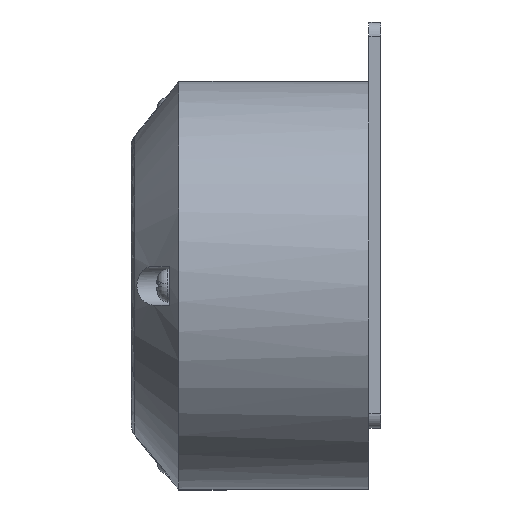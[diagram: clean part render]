
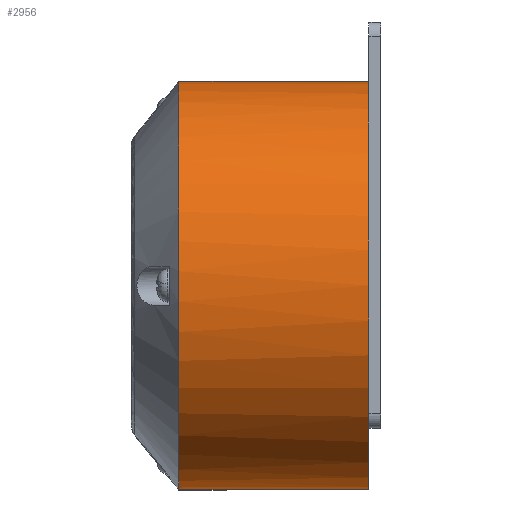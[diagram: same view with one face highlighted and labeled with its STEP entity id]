
A CAD part, left-side view. The second image highlights one B-rep face of the part: STEP entity #2956.
In plain terms, the highlighted cylindrical face has radius 43 mm (diameter 86 mm), a partial arc.
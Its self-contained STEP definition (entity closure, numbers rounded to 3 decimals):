
#168 = VERTEX_POINT ( 'NONE', #2291 ) ;
#201 = CARTESIAN_POINT ( 'NONE',  ( -9.755, 40., -41.902 ) ) ;
#242 = CARTESIAN_POINT ( 'NONE',  ( -26.728, 40., -33.692 ) ) ;
#402 = CARTESIAN_POINT ( 'NONE',  ( -38.262, 40., 19.634 ) ) ;
#485 = CARTESIAN_POINT ( 'NONE',  ( -37.243, 40., -21.505 ) ) ;
#525 = CARTESIAN_POINT ( 'NONE',  ( -42.998, 40., -2.833 ) ) ;
#570 = CARTESIAN_POINT ( 'NONE',  ( -1.42, 40., 43. ) ) ;
#817 = CARTESIAN_POINT ( 'NONE',  ( 0., 40., -43. ) ) ;
#829 = ORIENTED_EDGE ( 'NONE', *, *, #4206, .T. ) ;
#866 = CARTESIAN_POINT ( 'NONE',  ( -24.457, 40., -35.374 ) ) ;
#891 = FACE_OUTER_BOUND ( 'NONE', #5869, .T. ) ;
#939 = CARTESIAN_POINT ( 'NONE',  ( 0., 40., 43. ) ) ;
#1023 = CARTESIAN_POINT ( 'NONE',  ( -41.345, 40., -11.837 ) ) ;
#1065 = CARTESIAN_POINT ( 'NONE',  ( -17.778, 40., 39.178 ) ) ;
#1112 = CARTESIAN_POINT ( 'NONE',  ( -37.591, 40., -20.891 ) ) ;
#1151 = CARTESIAN_POINT ( 'NONE',  ( -29.414, 40., -31.397 ) ) ;
#1271 = B_SPLINE_CURVE_WITH_KNOTS ( 'NONE', 3,
 ( #817, #3369, #5880, #201, #7776, #2108, #4636, #7151, #1483, #4021, #6537, #866, #3412, #5920, #242, #2791, #1151, #3574, #7362, #5461, #2362, #485, #1112, #2494, #1823, #6195, #1740, #1023, #8165, #6243, #3041, #4226, #525, #3125, #4351, #3004, #4266, #2405, #3616, #5005, #3081, #6702, #4845, #6783, #402, #6079, #2964, #3691, #4312, #2324, #4968, #6829, #8121, #3658, #7441, #6744, #5582, #7522, #1065, #3731, #6121, #5540, #5504, #1781, #570, #6160 ),
 .UNSPECIFIED., .F., .F.,
 ( 4, 2, 2, 2, 2, 2, 2, 2, 2, 2, 2, 2, 2, 2, 2, 2, 2, 2, 2, 2, 2, 2, 2, 2, 2, 2, 2, 2, 2, 2, 2, 2, 4 ),
 ( 0., 0.008, 0.013, 0.015, 0.017, 0.025, 0.027, 0.029, 0.034, 0.042, 0.044, 0.046, 0.05, 0.055, 0.057, 0.059, 0.067, 0.071, 0.074, 0.076, 0.084, 0.086, 0.088, 0.092, 0.101, 0.103, 0.105, 0.109, 0.113, 0.118, 0.126, 0.13, 0.134 ),
 .UNSPECIFIED. ) ;
#1483 = CARTESIAN_POINT ( 'NONE',  ( -15.812, 40., -39.994 ) ) ;
#1607 = LINE ( 'NONE', #939, #6669 ) ;
#1663 = EDGE_CURVE ( 'NONE', #4349, #168, #1271, .T. ) ;
#1740 = CARTESIAN_POINT ( 'NONE',  ( -40.731, 40., -13.856 ) ) ;
#1781 = CARTESIAN_POINT ( 'NONE',  ( -2.837, 40., 42.93 ) ) ;
#1823 = CARTESIAN_POINT ( 'NONE',  ( -39.185, 40., -17.762 ) ) ;
#1845 = CARTESIAN_POINT ( 'NONE',  ( 0., 40., -43. ) ) ;
#2046 = VECTOR ( 'NONE', #4106, 1000. ) ;
#2051 = AXIS2_PLACEMENT_3D ( 'NONE', #3087, #5587, #3737 ) ;
#2108 = CARTESIAN_POINT ( 'NONE',  ( -13.143, 40., -40.948 ) ) ;
#2291 = CARTESIAN_POINT ( 'NONE',  ( 0., 40., 43. ) ) ;
#2324 = CARTESIAN_POINT ( 'NONE',  ( -29.927, 40., 30.885 ) ) ;
#2362 = CARTESIAN_POINT ( 'NONE',  ( -36.515, 40., -22.719 ) ) ;
#2405 = CARTESIAN_POINT ( 'NONE',  ( -42.433, 40., 6.997 ) ) ;
#2494 = CARTESIAN_POINT ( 'NONE',  ( -38.586, 40., -19.029 ) ) ;
#2791 = CARTESIAN_POINT ( 'NONE',  ( -28.372, 40., -32.343 ) ) ;
#2956 = ADVANCED_FACE ( 'NONE', ( #891 ), #4917, .T. ) ;
#2964 = CARTESIAN_POINT ( 'NONE',  ( -36.542, 40., 22.708 ) ) ;
#3004 = CARTESIAN_POINT ( 'NONE',  ( -42.727, 40., 4.893 ) ) ;
#3041 = CARTESIAN_POINT ( 'NONE',  ( -42.034, 40., -9.091 ) ) ;
#3081 = CARTESIAN_POINT ( 'NONE',  ( -40.817, 40., 13.818 ) ) ;
#3087 = CARTESIAN_POINT ( 'NONE',  ( 0., 0., 0. ) ) ;
#3125 = CARTESIAN_POINT ( 'NONE',  ( -43.001, 40., 1.373 ) ) ;
#3369 = CARTESIAN_POINT ( 'NONE',  ( -2.841, 40., -43. ) ) ;
#3412 = CARTESIAN_POINT ( 'NONE',  ( -25.033, 40., -34.969 ) ) ;
#3574 = CARTESIAN_POINT ( 'NONE',  ( -32.389, 40., -28.422 ) ) ;
#3616 = CARTESIAN_POINT ( 'NONE',  ( -42.312, 40., 7.691 ) ) ;
#3653 = CARTESIAN_POINT ( 'NONE',  ( 0., 0., 43. ) ) ;
#3658 = CARTESIAN_POINT ( 'NONE',  ( -26.208, 40., 34.119 ) ) ;
#3691 = CARTESIAN_POINT ( 'NONE',  ( -34.209, 40., 26.203 ) ) ;
#3731 = CARTESIAN_POINT ( 'NONE',  ( -13.871, 40., 40.799 ) ) ;
#3737 = DIRECTION ( 'NONE',  ( 0., 0., 1. ) ) ;
#4021 = CARTESIAN_POINT ( 'NONE',  ( -19.066, 40., -38.645 ) ) ;
#4106 = DIRECTION ( 'NONE',  ( 0., -1., 0. ) ) ;
#4149 = CARTESIAN_POINT ( 'NONE',  ( 0., 40., -43. ) ) ;
#4206 = EDGE_CURVE ( 'NONE', #4349, #7091, #5997, .T. ) ;
#4226 = CARTESIAN_POINT ( 'NONE',  ( -42.725, 40., -5.623 ) ) ;
#4266 = CARTESIAN_POINT ( 'NONE',  ( -42.64, 40., 5.599 ) ) ;
#4268 = VERTEX_POINT ( 'NONE', #3653 ) ;
#4312 = CARTESIAN_POINT ( 'NONE',  ( -32.433, 40., 28.375 ) ) ;
#4349 = VERTEX_POINT ( 'NONE', #1845 ) ;
#4351 = CARTESIAN_POINT ( 'NONE',  ( -42.933, 40., 2.779 ) ) ;
#4570 = ORIENTED_EDGE ( 'NONE', *, *, #5659, .F. ) ;
#4636 = CARTESIAN_POINT ( 'NONE',  ( -13.817, 40., -40.726 ) ) ;
#4744 = CARTESIAN_POINT ( 'NONE',  ( 0., 0., -43. ) ) ;
#4837 = DIRECTION ( 'NONE',  ( 0., -1., 0. ) ) ;
#4845 = CARTESIAN_POINT ( 'NONE',  ( -39.187, 40., 17.717 ) ) ;
#4873 = CARTESIAN_POINT ( 'NONE',  ( 0., 40., 0. ) ) ;
#4917 = CYLINDRICAL_SURFACE ( 'NONE', #6788, 43. ) ;
#4968 = CARTESIAN_POINT ( 'NONE',  ( -29.413, 40., 31.375 ) ) ;
#5005 = CARTESIAN_POINT ( 'NONE',  ( -41.628, 40., 11.138 ) ) ;
#5461 = CARTESIAN_POINT ( 'NONE',  ( -36.134, 40., -23.32 ) ) ;
#5504 = CARTESIAN_POINT ( 'NONE',  ( -5.663, 40., 42.649 ) ) ;
#5540 = CARTESIAN_POINT ( 'NONE',  ( -7.06, 40., 42.44 ) ) ;
#5582 = CARTESIAN_POINT ( 'NONE',  ( -21.553, 40., 37.235 ) ) ;
#5587 = DIRECTION ( 'NONE',  ( 0., 1., 0. ) ) ;
#5622 = CIRCLE ( 'NONE', #2051, 43. ) ;
#5659 = EDGE_CURVE ( 'NONE', #168, #4268, #1607, .T. ) ;
#5869 = EDGE_LOOP ( 'NONE', ( #7163, #4570, #6301, #829 ) ) ;
#5880 = CARTESIAN_POINT ( 'NONE',  ( -5.634, 40., -42.721 ) ) ;
#5920 = CARTESIAN_POINT ( 'NONE',  ( -26.168, 40., -34.128 ) ) ;
#5997 = LINE ( 'NONE', #4149, #2046 ) ;
#6014 = EDGE_CURVE ( 'NONE', #7091, #4268, #5622, .T. ) ;
#6079 = CARTESIAN_POINT ( 'NONE',  ( -37.264, 40., 21.503 ) ) ;
#6121 = CARTESIAN_POINT ( 'NONE',  ( -11.191, 40., 41.613 ) ) ;
#6160 = CARTESIAN_POINT ( 'NONE',  ( 0., 40., 43. ) ) ;
#6195 = CARTESIAN_POINT ( 'NONE',  ( -40.258, 40., -15.175 ) ) ;
#6243 = CARTESIAN_POINT ( 'NONE',  ( -41.878, 40., -9.786 ) ) ;
#6280 = DIRECTION ( 'NONE',  ( 0., 0., -1. ) ) ;
#6301 = ORIENTED_EDGE ( 'NONE', *, *, #1663, .F. ) ;
#6537 = CARTESIAN_POINT ( 'NONE',  ( -21.536, 40., -37.324 ) ) ;
#6669 = VECTOR ( 'NONE', #7194, 1000. ) ;
#6702 = CARTESIAN_POINT ( 'NONE',  ( -39.472, 40., 17.072 ) ) ;
#6744 = CARTESIAN_POINT ( 'NONE',  ( -22.756, 40., 36.512 ) ) ;
#6783 = CARTESIAN_POINT ( 'NONE',  ( -38.582, 40., 18.999 ) ) ;
#6788 = AXIS2_PLACEMENT_3D ( 'NONE', #4873, #4837, #6280 ) ;
#6829 = CARTESIAN_POINT ( 'NONE',  ( -28.368, 40., 32.323 ) ) ;
#7091 = VERTEX_POINT ( 'NONE', #4744 ) ;
#7151 = CARTESIAN_POINT ( 'NONE',  ( -15.152, 40., -40.248 ) ) ;
#7163 = ORIENTED_EDGE ( 'NONE', *, *, #6014, .T. ) ;
#7194 = DIRECTION ( 'NONE',  ( 0., -1., 0. ) ) ;
#7362 = CARTESIAN_POINT ( 'NONE',  ( -34.169, 40., -26.257 ) ) ;
#7441 = CARTESIAN_POINT ( 'NONE',  ( -25.083, 40., 34.954 ) ) ;
#7522 = CARTESIAN_POINT ( 'NONE',  ( -19.067, 40., 38.567 ) ) ;
#7776 = CARTESIAN_POINT ( 'NONE',  ( -11.117, 40., -41.562 ) ) ;
#8121 = CARTESIAN_POINT ( 'NONE',  ( -27.835, 40., 32.782 ) ) ;
#8165 = CARTESIAN_POINT ( 'NONE',  ( -41.533, 40., -11.158 ) ) ;
